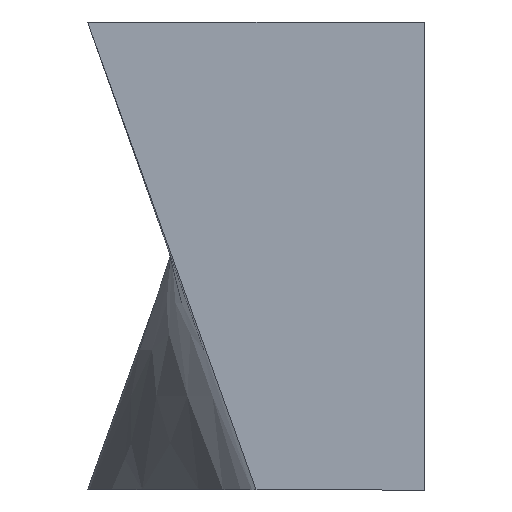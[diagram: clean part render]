
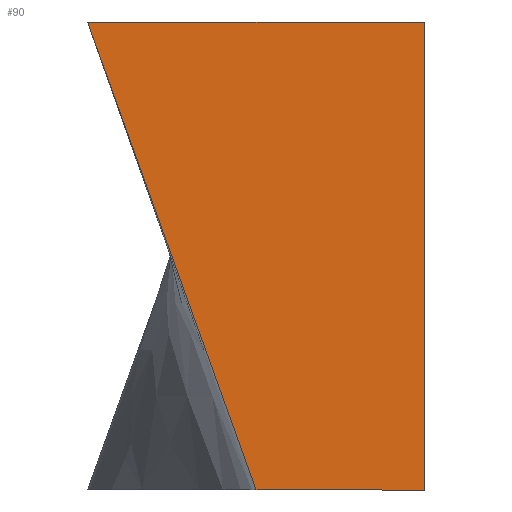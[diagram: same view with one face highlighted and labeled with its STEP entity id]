
A CAD part, left-side view. The second image highlights one B-rep face of the part: STEP entity #90.
In plain terms, the highlighted planar face has unit normal (-1, 0, 0).
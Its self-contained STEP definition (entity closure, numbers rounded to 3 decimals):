
#51=CARTESIAN_POINT('Axis2P3D Location',(0.,75.,139.)) ;
#56=CARTESIAN_POINT('Line Origine',(0.,150.,139.)) ;
#60=CARTESIAN_POINT('Vertex',(0.,100.,0.)) ;
#62=CARTESIAN_POINT('Vertex',(0.,200.,278.)) ;
#65=CARTESIAN_POINT('Line Origine',(0.,50.,0.)) ;
#69=CARTESIAN_POINT('Vertex',(0.,0.,0.)) ;
#72=CARTESIAN_POINT('Line Origine',(0.,0.,139.)) ;
#76=CARTESIAN_POINT('Vertex',(0.,0.,278.)) ;
#79=CARTESIAN_POINT('Line Origine',(0.,100.,278.)) ;
#52=DIRECTION('Axis2P3D Direction',(1.,0.,-0.)) ;
#53=DIRECTION('Axis2P3D XDirection',(0.,0.338,0.941)) ;
#57=DIRECTION('Vector Direction',(0.,0.338,0.941)) ;
#66=DIRECTION('Vector Direction',(0.,-1.,0.)) ;
#73=DIRECTION('Vector Direction',(0.,0.,1.)) ;
#80=DIRECTION('Vector Direction',(0.,-1.,0.)) ;
#54=AXIS2_PLACEMENT_3D('Plane Axis2P3D',#51,#52,#53) ;
#85=ORIENTED_EDGE('',*,*,#64,.F.) ;
#86=ORIENTED_EDGE('',*,*,#71,.T.) ;
#87=ORIENTED_EDGE('',*,*,#78,.T.) ;
#88=ORIENTED_EDGE('',*,*,#83,.F.) ;
#58=VECTOR('Line Direction',#57,1.) ;
#67=VECTOR('Line Direction',#66,1.) ;
#74=VECTOR('Line Direction',#73,1.) ;
#81=VECTOR('Line Direction',#80,1.) ;
#90=ADVANCED_FACE('PartBody',(#89),#55,.F.) ;
#64=EDGE_CURVE('',#61,#63,#59,.T.) ;
#71=EDGE_CURVE('',#61,#70,#68,.T.) ;
#78=EDGE_CURVE('',#70,#77,#75,.T.) ;
#83=EDGE_CURVE('',#63,#77,#82,.T.) ;
#84=EDGE_LOOP('',(#85,#86,#87,#88)) ;
#89=FACE_OUTER_BOUND('',#84,.T.) ;
#59=LINE('Line',#56,#58) ;
#68=LINE('Line',#65,#67) ;
#75=LINE('Line',#72,#74) ;
#82=LINE('Line',#79,#81) ;
#55=PLANE('',#54) ;
#61=VERTEX_POINT('',#60) ;
#63=VERTEX_POINT('',#62) ;
#70=VERTEX_POINT('',#69) ;
#77=VERTEX_POINT('',#76) ;
